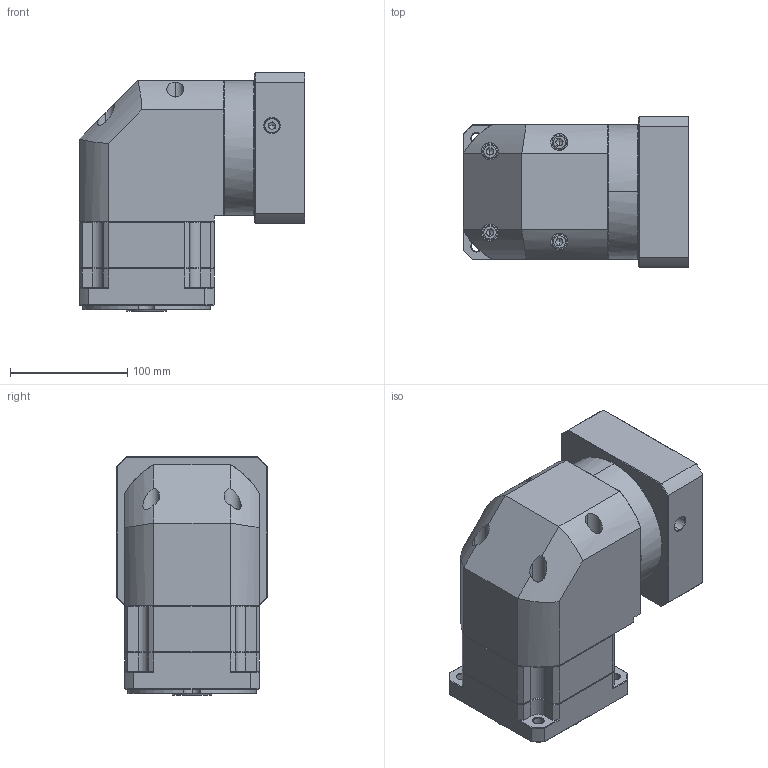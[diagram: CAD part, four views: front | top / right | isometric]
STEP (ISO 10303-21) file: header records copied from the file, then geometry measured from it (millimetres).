
FILE_DESCRIPTION (( 'STEP AP214' ), '1' );
FILE_NAME ('ZBR115A-K25-L1-P2-24-110-145-M8.step', '2023-08-26T12:42:51', ( '' ), ( '' ), 'SwSTEP 2.0', 'SolidWorks 2016', '' );
FILE_SCHEMA (( 'AUTOMOTIVE_DESIGN' ));
Length unit declared in the file: millimetre
Products named in the file (1): ZBR115A-K25-L1-P2-24-110-145-M8
Bounding box: 192.4 x 128 x 203 mm (x, y, z)
Volume: 2995059.3 mm3; surface area: 251628.8 mm2
Topology: 6 solids, 6 shells, 2324 faces, 6096 edges, 3876 vertices
Faces by surface type: plane 1132, bspline 415, cylinder 406, cone 363, torus 8
Entity records: 122679 total; most frequent: CARTESIAN_POINT 43235, ORIENTED_EDGE 12136, DIRECTION 9611, EDGE_CURVE 6068, LINE 3939, VECTOR 3939, VERTEX_POINT 3876, AXIS2_PLACEMENT_3D 2836
